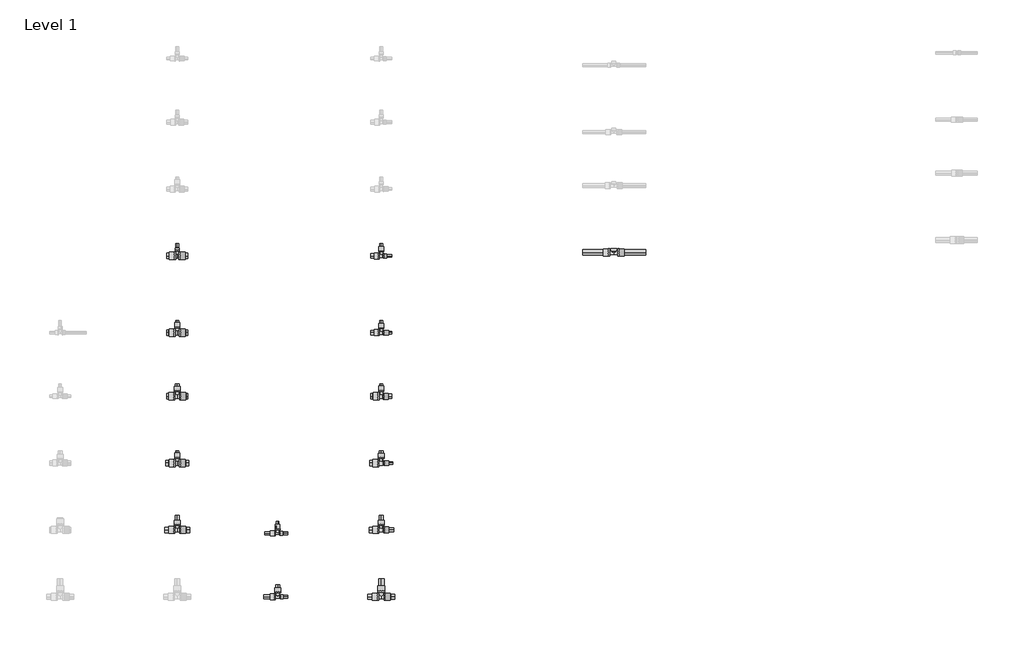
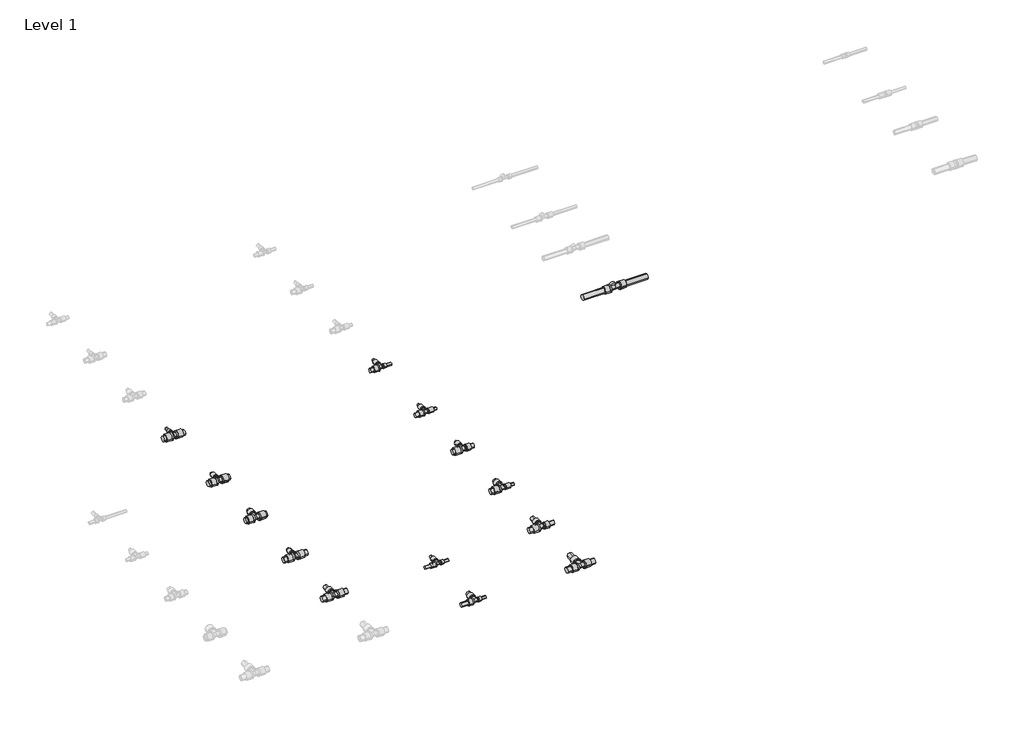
# One storey, part 34 of 78: 41 pipe segments, 14 pipe fittings.
"""IFC4 building model written with IfcOpenShell, lengths in millimetres."""

from ifc_helpers import new_model, si_unit, point, frame, frame_2d, origin, place, context, project, spatial, circle_curve, trimmed, segment, composite_curve, outline, extrude, transform, mapped, element, save
from components import pipe_fitting_91740978, pipe_fitting_29102c59, pipe_fitting_7435f538, pipe_fitting_b40a3e3c, pipe_fitting_a094db19, pipe_fitting_19df1a9e, pipe_fitting_16730f07, pipe_fitting_5d5decb5, pipe_fitting_f2600fd0, pipe_fitting_8d489ee2, pipe_fitting_c4e8b4db, pipe_fitting_e638986c

model = new_model("IFC4")

# Units and contexts
model_context = context("Model", 3, world=origin())
ifc_project = project(units=[si_unit("LENGTHUNIT", "METRE", prefix="MILLI")], contexts=[model_context])

# Site, building, storey
site = spatial("IfcSite", under=ifc_project)
building = spatial("IfcBuilding", under=site)
storey = spatial("IfcBuildingStorey", under=building, Name="Level 1", Elevation=0.0)

# Pipe fittings
placement = place(None, origin())
pipe_fitting_shape = pipe_fitting_91740978(model_context)
element("IfcPipeFitting", 1, ObjectType="FASTLOC_T-piece internal thread LX : FSL T thread LX FR", at=placement, inside=storey, context=model_context, shape_type="MappedRepresentation", body=[
    mapped(pipe_fitting_shape, transform((59036.609585, -28299.8272875, 0.0), x_axis=(1.0, 0.0, 0.0), y_axis=(0.0, 1.0, 0.0), z_axis=(0.0, 0.0, 1.0))),
])
pipe_fitting_2_shape = pipe_fitting_29102c59(model_context)
element("IfcPipeFitting", 2, ObjectType="FASTLOC_T-piece_LX : FSL T-Piece LX FR", at=placement, inside=storey, context=model_context, shape_type="MappedRepresentation", body=[
    mapped(pipe_fitting_2_shape, transform((57646.7498072, -30360.2405791, 0.0), x_axis=(1.0, 0.0, 0.0), y_axis=(0.0, 1.0, 0.0), z_axis=(0.0, 0.0, 1.0))),
])
pipe_fitting_3_shape = pipe_fitting_7435f538(model_context)
element("IfcPipeFitting", 3, ObjectType="FASTLOC_T-piece_LX : FSL T-Piece LX FR", at=placement, inside=storey, context=model_context, shape_type="MappedRepresentation", body=[
    mapped(pipe_fitting_3_shape, transform((56426.7498072, -28780.2405791, 0.0), x_axis=(1.0, 0.0, 0.0), y_axis=(0.0, 1.0, 0.0), z_axis=(0.0, 0.0, 1.0))),
])
element("IfcPipeFitting", 4, ObjectType="FASTLOC_T-piece_LX : FSL T-Piece LX FR", at=placement, inside=storey, context=model_context, shape_type="MappedRepresentation", body=[
    mapped(pipe_fitting_3_shape, transform((56426.7498072, -29560.2405791, 0.0), x_axis=(1.0, 0.0, 0.0), y_axis=(0.0, 1.0, 0.0), z_axis=(0.0, 0.0, 1.0))),
])
pipe_fitting_4_shape = pipe_fitting_b40a3e3c(model_context)
element("IfcPipeFitting", 5, ObjectType="FASTLOC_T-piece_LX : FSL T-Piece LX FR", at=placement, inside=storey, context=model_context, shape_type="MappedRepresentation", body=[
    mapped(pipe_fitting_4_shape, transform((56426.7498072, -29160.2405791, 0.0), x_axis=(1.0, 0.0, 0.0), y_axis=(0.0, 1.0, 0.0), z_axis=(0.0, 0.0, 1.0))),
])
element("IfcPipeFitting", 6, ObjectType="FASTLOC_T-piece_LX : FSL T-Piece LX FR", at=placement, inside=storey, context=model_context, shape_type="MappedRepresentation", body=[
    mapped(pipe_fitting_4_shape, transform((56426.7498072, -29960.2405791, 0.0), x_axis=(1.0, 0.0, 0.0), y_axis=(0.0, 1.0, 0.0), z_axis=(0.0, 0.0, 1.0))),
])
pipe_fitting_5_shape = pipe_fitting_a094db19(model_context)
element("IfcPipeFitting", 7, ObjectType="FASTLOC_T-piece_LX : FSL T-Piece LX FR", at=placement, inside=storey, context=model_context, shape_type="MappedRepresentation", body=[
    mapped(pipe_fitting_5_shape, transform((56426.7498072, -28320.2405791, 0.0), x_axis=(1.0, 0.0, 0.0), y_axis=(0.0, 1.0, 0.0), z_axis=(0.0, 0.0, 1.0))),
])
pipe_fitting_6_shape = pipe_fitting_19df1a9e(model_context)
element("IfcPipeFitting", 8, ObjectType="FASTLOC_T-piece_LX : FSL T-Piece LX FR", at=placement, inside=storey, context=model_context, shape_type="MappedRepresentation", body=[
    mapped(pipe_fitting_6_shape, transform((57026.7498072, -29980.2405791, 0.0), x_axis=(1.0, 0.0, 0.0), y_axis=(0.0, 1.0, 0.0), z_axis=(0.0, 0.0, 1.0))),
])
pipe_fitting_7_shape = pipe_fitting_16730f07(model_context)
element("IfcPipeFitting", 9, ObjectType="FASTLOC_T-piece_LX : FSL T-Piece LX FR", at=placement, inside=storey, context=model_context, shape_type="MappedRepresentation", body=[
    mapped(pipe_fitting_7_shape, transform((57026.7498072, -30360.2405791, 0.0), x_axis=(1.0, 0.0, 0.0), y_axis=(0.0, 1.0, 0.0), z_axis=(0.0, 0.0, 1.0))),
])
pipe_fitting_8_shape = pipe_fitting_5d5decb5(model_context)
element("IfcPipeFitting", 10, ObjectType="FASTLOC_T-piece_LX : FSL T-Piece LX FR", at=placement, inside=storey, context=model_context, shape_type="MappedRepresentation", body=[
    mapped(pipe_fitting_8_shape, transform((57646.7498072, -28780.2405791, 0.0), x_axis=(1.0, 0.0, 0.0), y_axis=(0.0, 1.0, 0.0), z_axis=(0.0, 0.0, 1.0))),
])
pipe_fitting_9_shape = pipe_fitting_f2600fd0(model_context)
element("IfcPipeFitting", 11, ObjectType="FASTLOC_T-piece_LX : FSL T-Piece LX FR", at=placement, inside=storey, context=model_context, shape_type="MappedRepresentation", body=[
    mapped(pipe_fitting_9_shape, transform((57646.7498072, -29160.2405791, 0.0), x_axis=(1.0, 0.0, 0.0), y_axis=(0.0, 1.0, 0.0), z_axis=(0.0, 0.0, 1.0))),
])
pipe_fitting_10_shape = pipe_fitting_8d489ee2(model_context)
element("IfcPipeFitting", 12, ObjectType="FASTLOC_T-piece_LX : FSL T-Piece LX FR", at=placement, inside=storey, context=model_context, shape_type="MappedRepresentation", body=[
    mapped(pipe_fitting_10_shape, transform((57646.7498072, -29560.2405791, 0.0), x_axis=(1.0, 0.0, 0.0), y_axis=(0.0, 1.0, 0.0), z_axis=(0.0, 0.0, 1.0))),
])
pipe_fitting_11_shape = pipe_fitting_c4e8b4db(model_context)
element("IfcPipeFitting", 13, ObjectType="FASTLOC_T-piece_LX : FSL T-Piece LX FR", at=placement, inside=storey, context=model_context, shape_type="MappedRepresentation", body=[
    mapped(pipe_fitting_11_shape, transform((57646.7498072, -29960.2405791, 0.0), x_axis=(1.0, 0.0, 0.0), y_axis=(0.0, 1.0, 0.0), z_axis=(0.0, 0.0, 1.0))),
])
pipe_fitting_12_shape = pipe_fitting_e638986c(model_context)
element("IfcPipeFitting", 14, ObjectType="FASTLOC_T-piece_LX : FSL T-Piece LX FR", at=placement, inside=storey, context=model_context, shape_type="MappedRepresentation", body=[
    mapped(pipe_fitting_12_shape, transform((57646.7498072, -28320.2405791, 0.0), x_axis=(1.0, 0.0, 0.0), y_axis=(0.0, 1.0, 0.0), z_axis=(0.0, 0.0, 1.0))),
])

# Pipe segments
element("IfcPipeSegment", 15, ObjectType="FASTLOC LX ML FR coil", at=placement, inside=storey, context=model_context, shape_type="SweptSolid", body=[
    extrude(outline(composite_curve([segment(trimmed(circle_curve(frame_2d((-28780.2405791, 0.0)), 16.0), [point((-28796.2405791, 0.0))], [point((-28780.2405791, 16.0))], False, "CARTESIAN"), True, "CONTINUOUS"), segment(trimmed(circle_curve(frame_2d((-28780.2405791, 0.0)), 16.0), [point((-28780.2405791, 16.0))], [point((-28764.2405791, 0.0))], False, "CARTESIAN"), True, "CONTINUOUS"), segment(trimmed(circle_curve(frame_2d((-28780.2405791, 0.0)), 16.0), [point((-28764.2405791, 0.0))], [point((-28780.2405791, -16.0))], False, "CARTESIAN"), True, "CONTINUOUS"), segment(trimmed(circle_curve(frame_2d((-28780.2405791, 0.0)), 16.0), [point((-28780.2405791, -16.0))], [point((-28796.2405791, 0.0))], False, "CARTESIAN"), True, "CONTINUOUS")], self_intersect=False)), frame((56446.9498072, 0.0, 0.0), z_axis=(1.0, 0.0, 0.0), x_axis=(0.0, 1.0, 0.0)), (0.0, 0.0, 1.0), 41.8),
])
element("IfcPipeSegment", 16, ObjectType="FASTLOC LX ML FR coil", at=placement, inside=storey, context=model_context, shape_type="SweptSolid", body=[
    extrude(outline(composite_curve([segment(trimmed(circle_curve(frame_2d((-28780.2405791, 0.0)), 16.0), [point((-28764.2405791, 0.0))], [point((-28780.2405791, -16.0))], False, "CARTESIAN"), True, "CONTINUOUS"), segment(trimmed(circle_curve(frame_2d((-28780.2405791, 0.0)), 16.0), [point((-28780.2405791, -16.0))], [point((-28796.2405791, 0.0))], False, "CARTESIAN"), True, "CONTINUOUS"), segment(trimmed(circle_curve(frame_2d((-28780.2405791, 0.0)), 16.0), [point((-28796.2405791, 0.0))], [point((-28780.2405791, 16.0))], False, "CARTESIAN"), True, "CONTINUOUS"), segment(trimmed(circle_curve(frame_2d((-28780.2405791, 0.0)), 16.0), [point((-28780.2405791, 16.0))], [point((-28764.2405791, 0.0))], False, "CARTESIAN"), True, "CONTINUOUS")], self_intersect=False)), frame((56364.7498072, 0.0, 0.0), z_axis=(1.0, 0.0, 0.0), x_axis=(0.0, 1.0, 0.0)), (0.0, 0.0, 1.0), 41.8),
])
element("IfcPipeSegment", 17, ObjectType="FASTLOC LX ML FR coil", at=placement, inside=storey, context=model_context, shape_type="SweptSolid", body=[
    extrude(outline(composite_curve([segment(trimmed(circle_curve(frame_2d((0.0, 56426.7498072)), 8.0), [point((0.0, 56434.7498072))], [point((8.0, 56426.7498072))], False, "CARTESIAN"), True, "CONTINUOUS"), segment(trimmed(circle_curve(frame_2d((0.0, 56426.7498072)), 8.0), [point((8.0, 56426.7498072))], [point((0.0, 56418.7498072))], False, "CARTESIAN"), True, "CONTINUOUS"), segment(trimmed(circle_curve(frame_2d((0.0, 56426.7498072)), 8.0), [point((0.0, 56418.7498072))], [point((-8.0, 56426.7498072))], False, "CARTESIAN"), True, "CONTINUOUS"), segment(trimmed(circle_curve(frame_2d((0.0, 56426.7498072)), 8.0), [point((-8.0, 56426.7498072))], [point((0.0, 56434.7498072))], False, "CARTESIAN"), True, "CONTINUOUS")], self_intersect=False)), frame((0.0, -28746.2405791, 0.0), z_axis=(0.0, 1.0, 0.0), x_axis=(0.0, 0.0, 1.0)), (0.0, 0.0, 1.0), 38.3),
])
element("IfcPipeSegment", 18, ObjectType="FASTLOC LX ML FR coil", at=placement, inside=storey, context=model_context, shape_type="SweptSolid", body=[
    extrude(outline(composite_curve([segment(trimmed(circle_curve(frame_2d((-29160.2405791, 0.0)), 16.0), [point((-29176.2405791, 0.0))], [point((-29160.2405791, 16.0))], False, "CARTESIAN"), True, "CONTINUOUS"), segment(trimmed(circle_curve(frame_2d((-29160.2405791, 0.0)), 16.0), [point((-29160.2405791, 16.0))], [point((-29144.2405791, 0.0))], False, "CARTESIAN"), True, "CONTINUOUS"), segment(trimmed(circle_curve(frame_2d((-29160.2405791, 0.0)), 16.0), [point((-29144.2405791, 0.0))], [point((-29160.2405791, -16.0))], False, "CARTESIAN"), True, "CONTINUOUS"), segment(trimmed(circle_curve(frame_2d((-29160.2405791, 0.0)), 16.0), [point((-29160.2405791, -16.0))], [point((-29176.2405791, 0.0))], False, "CARTESIAN"), True, "CONTINUOUS")], self_intersect=False)), frame((56448.7498072, 0.0, 0.0), z_axis=(1.0, 0.0, 0.0), x_axis=(0.0, 1.0, 0.0)), (0.0, 0.0, 1.0), 40.0),
])
element("IfcPipeSegment", 19, ObjectType="FASTLOC LX ML FR coil", at=placement, inside=storey, context=model_context, shape_type="SweptSolid", body=[
    extrude(outline(composite_curve([segment(trimmed(circle_curve(frame_2d((-29160.2405791, 0.0)), 16.0), [point((-29144.2405791, 0.0))], [point((-29160.2405791, -16.0))], False, "CARTESIAN"), True, "CONTINUOUS"), segment(trimmed(circle_curve(frame_2d((-29160.2405791, 0.0)), 16.0), [point((-29160.2405791, -16.0))], [point((-29176.2405791, 0.0))], False, "CARTESIAN"), True, "CONTINUOUS"), segment(trimmed(circle_curve(frame_2d((-29160.2405791, 0.0)), 16.0), [point((-29176.2405791, 0.0))], [point((-29160.2405791, 16.0))], False, "CARTESIAN"), True, "CONTINUOUS"), segment(trimmed(circle_curve(frame_2d((-29160.2405791, 0.0)), 16.0), [point((-29160.2405791, 16.0))], [point((-29144.2405791, 0.0))], False, "CARTESIAN"), True, "CONTINUOUS")], self_intersect=False)), frame((56364.7498072, 0.0, 0.0), z_axis=(1.0, 0.0, 0.0), x_axis=(0.0, 1.0, 0.0)), (0.0, 0.0, 1.0), 40.0),
])
element("IfcPipeSegment", 20, ObjectType="FASTLOC LX ML FR coil", at=placement, inside=storey, context=model_context, shape_type="SweptSolid", body=[
    extrude(outline(composite_curve([segment(trimmed(circle_curve(frame_2d((0.0, 56426.7498072)), 12.5), [point((0.0, 56439.2498072))], [point((12.5, 56426.7498072))], False, "CARTESIAN"), True, "CONTINUOUS"), segment(trimmed(circle_curve(frame_2d((0.0, 56426.7498072)), 12.5), [point((12.5, 56426.7498072))], [point((0.0, 56414.2498072))], False, "CARTESIAN"), True, "CONTINUOUS"), segment(trimmed(circle_curve(frame_2d((0.0, 56426.7498072)), 12.5), [point((0.0, 56414.2498072))], [point((-12.5, 56426.7498072))], False, "CARTESIAN"), True, "CONTINUOUS"), segment(trimmed(circle_curve(frame_2d((0.0, 56426.7498072)), 12.5), [point((-12.5, 56426.7498072))], [point((0.0, 56439.2498072))], False, "CARTESIAN"), True, "CONTINUOUS")], self_intersect=False)), frame((0.0, -29125.8405791, 0.0), z_axis=(0.0, 1.0, 0.0), x_axis=(0.0, 0.0, 1.0)), (0.0, 0.0, 1.0), 37.9),
])
element("IfcPipeSegment", 21, ObjectType="FASTLOC LX ML FR coil", at=placement, inside=storey, context=model_context, shape_type="SweptSolid", body=[
    extrude(outline(composite_curve([segment(trimmed(circle_curve(frame_2d((-29560.2405791, 0.0)), 16.0), [point((-29576.2405791, 0.0))], [point((-29560.2405791, 16.0))], False, "CARTESIAN"), True, "CONTINUOUS"), segment(trimmed(circle_curve(frame_2d((-29560.2405791, 0.0)), 16.0), [point((-29560.2405791, 16.0))], [point((-29544.2405791, 0.0))], False, "CARTESIAN"), True, "CONTINUOUS"), segment(trimmed(circle_curve(frame_2d((-29560.2405791, 0.0)), 16.0), [point((-29544.2405791, 0.0))], [point((-29560.2405791, -16.0))], False, "CARTESIAN"), True, "CONTINUOUS"), segment(trimmed(circle_curve(frame_2d((-29560.2405791, 0.0)), 16.0), [point((-29560.2405791, -16.0))], [point((-29576.2405791, 0.0))], False, "CARTESIAN"), True, "CONTINUOUS")], self_intersect=False)), frame((56446.9498072, 0.0, 0.0), z_axis=(1.0, 0.0, 0.0), x_axis=(0.0, 1.0, 0.0)), (0.0, 0.0, 1.0), 48.8),
])
element("IfcPipeSegment", 22, ObjectType="FASTLOC LX ML FR coil", at=placement, inside=storey, context=model_context, shape_type="SweptSolid", body=[
    extrude(outline(composite_curve([segment(trimmed(circle_curve(frame_2d((-29560.2405791, 0.0)), 16.0), [point((-29544.2405791, 0.0))], [point((-29560.2405791, -16.0))], False, "CARTESIAN"), True, "CONTINUOUS"), segment(trimmed(circle_curve(frame_2d((-29560.2405791, 0.0)), 16.0), [point((-29560.2405791, -16.0))], [point((-29576.2405791, 0.0))], False, "CARTESIAN"), True, "CONTINUOUS"), segment(trimmed(circle_curve(frame_2d((-29560.2405791, 0.0)), 16.0), [point((-29576.2405791, 0.0))], [point((-29560.2405791, 16.0))], False, "CARTESIAN"), True, "CONTINUOUS"), segment(trimmed(circle_curve(frame_2d((-29560.2405791, 0.0)), 16.0), [point((-29560.2405791, 16.0))], [point((-29544.2405791, 0.0))], False, "CARTESIAN"), True, "CONTINUOUS")], self_intersect=False)), frame((56357.7498072, 0.0, 0.0), z_axis=(1.0, 0.0, 0.0), x_axis=(0.0, 1.0, 0.0)), (0.0, 0.0, 1.0), 48.8),
])
element("IfcPipeSegment", 23, ObjectType="FASTLOC LX ML FR coil", at=placement, inside=storey, context=model_context, shape_type="SweptSolid", body=[
    extrude(outline(composite_curve([segment(trimmed(circle_curve(frame_2d((0.0, 56426.7498072)), 8.0), [point((0.0, 56434.7498072))], [point((8.0, 56426.7498072))], False, "CARTESIAN"), True, "CONTINUOUS"), segment(trimmed(circle_curve(frame_2d((0.0, 56426.7498072)), 8.0), [point((8.0, 56426.7498072))], [point((0.0, 56418.7498072))], False, "CARTESIAN"), True, "CONTINUOUS"), segment(trimmed(circle_curve(frame_2d((0.0, 56426.7498072)), 8.0), [point((0.0, 56418.7498072))], [point((-8.0, 56426.7498072))], False, "CARTESIAN"), True, "CONTINUOUS"), segment(trimmed(circle_curve(frame_2d((0.0, 56426.7498072)), 8.0), [point((-8.0, 56426.7498072))], [point((0.0, 56434.7498072))], False, "CARTESIAN"), True, "CONTINUOUS")], self_intersect=False)), frame((0.0, -29526.2405791, 0.0), z_axis=(0.0, 1.0, 0.0), x_axis=(0.0, 0.0, 1.0)), (0.0, 0.0, 1.0), 38.3),
])
element("IfcPipeSegment", 24, ObjectType="FASTLOC LX ML FR coil", at=placement, inside=storey, context=model_context, shape_type="SweptSolid", body=[
    extrude(outline(composite_curve([segment(trimmed(circle_curve(frame_2d((-29960.2405791, 0.0)), 16.0), [point((-29976.2405791, 0.0))], [point((-29960.2405791, 16.0))], False, "CARTESIAN"), True, "CONTINUOUS"), segment(trimmed(circle_curve(frame_2d((-29960.2405791, 0.0)), 16.0), [point((-29960.2405791, 16.0))], [point((-29944.2405791, 0.0))], False, "CARTESIAN"), True, "CONTINUOUS"), segment(trimmed(circle_curve(frame_2d((-29960.2405791, 0.0)), 16.0), [point((-29944.2405791, 0.0))], [point((-29960.2405791, -16.0))], False, "CARTESIAN"), True, "CONTINUOUS"), segment(trimmed(circle_curve(frame_2d((-29960.2405791, 0.0)), 16.0), [point((-29960.2405791, -16.0))], [point((-29976.2405791, 0.0))], False, "CARTESIAN"), True, "CONTINUOUS")], self_intersect=False)), frame((56448.7498072, 0.0, 0.0), z_axis=(1.0, 0.0, 0.0), x_axis=(0.0, 1.0, 0.0)), (0.0, 0.0, 1.0), 51.6),
])
element("IfcPipeSegment", 25, ObjectType="FASTLOC LX ML FR coil", at=placement, inside=storey, context=model_context, shape_type="SweptSolid", body=[
    extrude(outline(composite_curve([segment(trimmed(circle_curve(frame_2d((-29960.2405791, 0.0)), 16.0), [point((-29944.2405791, 0.0))], [point((-29960.2405791, -16.0))], False, "CARTESIAN"), True, "CONTINUOUS"), segment(trimmed(circle_curve(frame_2d((-29960.2405791, 0.0)), 16.0), [point((-29960.2405791, -16.0))], [point((-29976.2405791, 0.0))], False, "CARTESIAN"), True, "CONTINUOUS"), segment(trimmed(circle_curve(frame_2d((-29960.2405791, 0.0)), 16.0), [point((-29976.2405791, 0.0))], [point((-29960.2405791, 16.0))], False, "CARTESIAN"), True, "CONTINUOUS"), segment(trimmed(circle_curve(frame_2d((-29960.2405791, 0.0)), 16.0), [point((-29960.2405791, 16.0))], [point((-29944.2405791, 0.0))], False, "CARTESIAN"), True, "CONTINUOUS")], self_intersect=False)), frame((56353.1498072, 0.0, 0.0), z_axis=(1.0, 0.0, 0.0), x_axis=(0.0, 1.0, 0.0)), (0.0, 0.0, 1.0), 51.6),
])
element("IfcPipeSegment", 26, ObjectType="FASTLOC LX ML FR coil", at=placement, inside=storey, context=model_context, shape_type="SweptSolid", body=[
    extrude(outline(composite_curve([segment(trimmed(circle_curve(frame_2d((0.0, 56426.7498072)), 12.5), [point((0.0, 56439.2498072))], [point((12.5, 56426.7498072))], False, "CARTESIAN"), True, "CONTINUOUS"), segment(trimmed(circle_curve(frame_2d((0.0, 56426.7498072)), 12.5), [point((12.5, 56426.7498072))], [point((0.0, 56414.2498072))], False, "CARTESIAN"), True, "CONTINUOUS"), segment(trimmed(circle_curve(frame_2d((0.0, 56426.7498072)), 12.5), [point((0.0, 56414.2498072))], [point((-12.5, 56426.7498072))], False, "CARTESIAN"), True, "CONTINUOUS"), segment(trimmed(circle_curve(frame_2d((0.0, 56426.7498072)), 12.5), [point((-12.5, 56426.7498072))], [point((0.0, 56439.2498072))], False, "CARTESIAN"), True, "CONTINUOUS")], self_intersect=False)), frame((0.0, -29925.8405791, 0.0), z_axis=(0.0, 1.0, 0.0), x_axis=(0.0, 0.0, 1.0)), (0.0, 0.0, 1.0), 53.4),
])
element("IfcPipeSegment", 27, ObjectType="FASTLOC LX ML FR coil", at=placement, inside=storey, context=model_context, shape_type="SweptSolid", body=[
    extrude(outline(composite_curve([segment(trimmed(circle_curve(frame_2d((-28320.2405791, 0.0)), 16.0), [point((-28336.2405791, 0.0))], [point((-28320.2405791, 16.0))], False, "CARTESIAN"), True, "CONTINUOUS"), segment(trimmed(circle_curve(frame_2d((-28320.2405791, 0.0)), 16.0), [point((-28320.2405791, 16.0))], [point((-28304.2405791, 0.0))], False, "CARTESIAN"), True, "CONTINUOUS"), segment(trimmed(circle_curve(frame_2d((-28320.2405791, 0.0)), 16.0), [point((-28304.2405791, 0.0))], [point((-28320.2405791, -16.0))], False, "CARTESIAN"), True, "CONTINUOUS"), segment(trimmed(circle_curve(frame_2d((-28320.2405791, 0.0)), 16.0), [point((-28320.2405791, -16.0))], [point((-28336.2405791, 0.0))], False, "CARTESIAN"), True, "CONTINUOUS")], self_intersect=False)), frame((56445.0498072, 0.0, 0.0), z_axis=(1.0, 0.0, 0.0), x_axis=(0.0, 1.0, 0.0)), (0.0, 0.0, 1.0), 43.7),
])
element("IfcPipeSegment", 28, ObjectType="FASTLOC LX ML FR coil", at=placement, inside=storey, context=model_context, shape_type="SweptSolid", body=[
    extrude(outline(composite_curve([segment(trimmed(circle_curve(frame_2d((-28320.2405791, 0.0)), 16.0), [point((-28304.2405791, 0.0))], [point((-28320.2405791, -16.0))], False, "CARTESIAN"), True, "CONTINUOUS"), segment(trimmed(circle_curve(frame_2d((-28320.2405791, 0.0)), 16.0), [point((-28320.2405791, -16.0))], [point((-28336.2405791, 0.0))], False, "CARTESIAN"), True, "CONTINUOUS"), segment(trimmed(circle_curve(frame_2d((-28320.2405791, 0.0)), 16.0), [point((-28336.2405791, 0.0))], [point((-28320.2405791, 16.0))], False, "CARTESIAN"), True, "CONTINUOUS"), segment(trimmed(circle_curve(frame_2d((-28320.2405791, 0.0)), 16.0), [point((-28320.2405791, 16.0))], [point((-28304.2405791, 0.0))], False, "CARTESIAN"), True, "CONTINUOUS")], self_intersect=False)), frame((56364.7498072, 0.0, 0.0), z_axis=(1.0, 0.0, 0.0), x_axis=(0.0, 1.0, 0.0)), (0.0, 0.0, 1.0), 43.7),
])
element("IfcPipeSegment", 29, ObjectType="FASTLOC LX ML FR coil", at=placement, inside=storey, context=model_context, shape_type="SweptSolid", body=[
    extrude(outline(composite_curve([segment(trimmed(circle_curve(frame_2d((0.0, 56426.7498072)), 8.0), [point((0.0, 56434.7498072))], [point((8.0, 56426.7498072))], False, "CARTESIAN"), True, "CONTINUOUS"), segment(trimmed(circle_curve(frame_2d((0.0, 56426.7498072)), 8.0), [point((8.0, 56426.7498072))], [point((0.0, 56418.7498072))], False, "CARTESIAN"), True, "CONTINUOUS"), segment(trimmed(circle_curve(frame_2d((0.0, 56426.7498072)), 8.0), [point((0.0, 56418.7498072))], [point((-8.0, 56426.7498072))], False, "CARTESIAN"), True, "CONTINUOUS"), segment(trimmed(circle_curve(frame_2d((0.0, 56426.7498072)), 8.0), [point((-8.0, 56426.7498072))], [point((0.0, 56434.7498072))], False, "CARTESIAN"), True, "CONTINUOUS")], self_intersect=False)), frame((0.0, -28286.3405791, 0.0), z_axis=(0.0, 1.0, 0.0), x_axis=(0.0, 0.0, 1.0)), (0.0, 0.0, 1.0), 38.4),
])
element("IfcPipeSegment", 30, ObjectType="FASTLOC LX ML FR coil", at=placement, inside=storey, context=model_context, shape_type="SweptSolid", body=[
    extrude(outline(composite_curve([segment(trimmed(circle_curve(frame_2d((-29980.2405791, 0.0)), 8.0), [point((-29988.2405791, 0.0))], [point((-29980.2405791, 8.0))], False, "CARTESIAN"), True, "CONTINUOUS"), segment(trimmed(circle_curve(frame_2d((-29980.2405791, 0.0)), 8.0), [point((-29980.2405791, 8.0))], [point((-29972.2405791, 0.0))], False, "CARTESIAN"), True, "CONTINUOUS"), segment(trimmed(circle_curve(frame_2d((-29980.2405791, 0.0)), 8.0), [point((-29972.2405791, 0.0))], [point((-29980.2405791, -8.0))], False, "CARTESIAN"), True, "CONTINUOUS"), segment(trimmed(circle_curve(frame_2d((-29980.2405791, 0.0)), 8.0), [point((-29980.2405791, -8.0))], [point((-29988.2405791, 0.0))], False, "CARTESIAN"), True, "CONTINUOUS")], self_intersect=False)), frame((57043.7498072, 0.0, 0.0), z_axis=(1.0, 0.0, 0.0), x_axis=(0.0, 1.0, 0.0)), (0.0, 0.0, 1.0), 45.0),
])
element("IfcPipeSegment", 31, ObjectType="FASTLOC LX ML FR coil", at=placement, inside=storey, context=model_context, shape_type="SweptSolid", body=[
    extrude(outline(composite_curve([segment(trimmed(circle_curve(frame_2d((-29980.2405791, 0.0)), 8.0), [point((-29972.2405791, 0.0))], [point((-29980.2405791, -8.0))], False, "CARTESIAN"), True, "CONTINUOUS"), segment(trimmed(circle_curve(frame_2d((-29980.2405791, 0.0)), 8.0), [point((-29980.2405791, -8.0))], [point((-29988.2405791, 0.0))], False, "CARTESIAN"), True, "CONTINUOUS"), segment(trimmed(circle_curve(frame_2d((-29980.2405791, 0.0)), 8.0), [point((-29988.2405791, 0.0))], [point((-29980.2405791, 8.0))], False, "CARTESIAN"), True, "CONTINUOUS"), segment(trimmed(circle_curve(frame_2d((-29980.2405791, 0.0)), 8.0), [point((-29980.2405791, 8.0))], [point((-29972.2405791, 0.0))], False, "CARTESIAN"), True, "CONTINUOUS")], self_intersect=False)), frame((56949.3498072, 0.0, 0.0), z_axis=(1.0, 0.0, 0.0), x_axis=(0.0, 1.0, 0.0)), (0.0, 0.0, 1.0), 60.0),
])
element("IfcPipeSegment", 32, ObjectType="FASTLOC LX ML FR coil", at=placement, inside=storey, context=model_context, shape_type="SweptSolid", body=[
    extrude(outline(composite_curve([segment(trimmed(circle_curve(frame_2d((0.0, 57026.7498072)), 8.0), [point((0.0, 57034.7498072))], [point((8.0, 57026.7498072))], False, "CARTESIAN"), True, "CONTINUOUS"), segment(trimmed(circle_curve(frame_2d((0.0, 57026.7498072)), 8.0), [point((8.0, 57026.7498072))], [point((0.0, 57018.7498072))], False, "CARTESIAN"), True, "CONTINUOUS"), segment(trimmed(circle_curve(frame_2d((0.0, 57026.7498072)), 8.0), [point((0.0, 57018.7498072))], [point((-8.0, 57026.7498072))], False, "CARTESIAN"), True, "CONTINUOUS"), segment(trimmed(circle_curve(frame_2d((0.0, 57026.7498072)), 8.0), [point((-8.0, 57026.7498072))], [point((0.0, 57034.7498072))], False, "CARTESIAN"), True, "CONTINUOUS")], self_intersect=False)), frame((0.0, -29953.8405791, 0.0), z_axis=(0.0, 1.0, 0.0), x_axis=(0.0, 0.0, 1.0)), (0.0, 0.0, 1.0), 45.9),
])
element("IfcPipeSegment", 33, ObjectType="FASTLOC LX ML FR coil", at=placement, inside=storey, context=model_context, shape_type="SweptSolid", body=[
    extrude(outline(composite_curve([segment(trimmed(circle_curve(frame_2d((-30360.2405791, 0.0)), 8.0), [point((-30368.2405791, 0.0))], [point((-30360.2405791, 8.0))], False, "CARTESIAN"), True, "CONTINUOUS"), segment(trimmed(circle_curve(frame_2d((-30360.2405791, 0.0)), 8.0), [point((-30360.2405791, 8.0))], [point((-30352.2405791, 0.0))], False, "CARTESIAN"), True, "CONTINUOUS"), segment(trimmed(circle_curve(frame_2d((-30360.2405791, 0.0)), 8.0), [point((-30352.2405791, 0.0))], [point((-30360.2405791, -8.0))], False, "CARTESIAN"), True, "CONTINUOUS"), segment(trimmed(circle_curve(frame_2d((-30360.2405791, 0.0)), 8.0), [point((-30360.2405791, -8.0))], [point((-30368.2405791, 0.0))], False, "CARTESIAN"), True, "CONTINUOUS")], self_intersect=False)), frame((57045.5498072, 0.0, 0.0), z_axis=(1.0, 0.0, 0.0), x_axis=(0.0, 1.0, 0.0)), (0.0, 0.0, 1.0), 43.2),
])
element("IfcPipeSegment", 34, ObjectType="FASTLOC LX ML FR coil", at=placement, inside=storey, context=model_context, shape_type="SweptSolid", body=[
    extrude(outline(composite_curve([segment(trimmed(circle_curve(frame_2d((-30360.2405791, 0.0)), 12.5), [point((-30347.7405791, 0.0))], [point((-30360.2405791, -12.5))], False, "CARTESIAN"), True, "CONTINUOUS"), segment(trimmed(circle_curve(frame_2d((-30360.2405791, 0.0)), 12.5), [point((-30360.2405791, -12.5))], [point((-30372.7405791, 0.0))], False, "CARTESIAN"), True, "CONTINUOUS"), segment(trimmed(circle_curve(frame_2d((-30360.2405791, 0.0)), 12.5), [point((-30372.7405791, 0.0))], [point((-30360.2405791, 12.5))], False, "CARTESIAN"), True, "CONTINUOUS"), segment(trimmed(circle_curve(frame_2d((-30360.2405791, 0.0)), 12.5), [point((-30360.2405791, 12.5))], [point((-30347.7405791, 0.0))], False, "CARTESIAN"), True, "CONTINUOUS")], self_intersect=False)), frame((56944.3498072, 0.0, 0.0), z_axis=(1.0, 0.0, 0.0), x_axis=(0.0, 1.0, 0.0)), (0.0, 0.0, 1.0), 62.3),
])
element("IfcPipeSegment", 35, ObjectType="FASTLOC LX ML FR coil", at=placement, inside=storey, context=model_context, shape_type="SweptSolid", body=[
    extrude(outline(composite_curve([segment(trimmed(circle_curve(frame_2d((0.0, 57026.7498072)), 12.5), [point((0.0, 57039.2498072))], [point((12.5, 57026.7498072))], False, "CARTESIAN"), True, "CONTINUOUS"), segment(trimmed(circle_curve(frame_2d((0.0, 57026.7498072)), 12.5), [point((12.5, 57026.7498072))], [point((0.0, 57014.2498072))], False, "CARTESIAN"), True, "CONTINUOUS"), segment(trimmed(circle_curve(frame_2d((0.0, 57026.7498072)), 12.5), [point((0.0, 57014.2498072))], [point((-12.5, 57026.7498072))], False, "CARTESIAN"), True, "CONTINUOUS"), segment(trimmed(circle_curve(frame_2d((0.0, 57026.7498072)), 12.5), [point((-12.5, 57026.7498072))], [point((0.0, 57039.2498072))], False, "CARTESIAN"), True, "CONTINUOUS")], self_intersect=False)), frame((0.0, -30330.7405791, 0.0), z_axis=(0.0, 1.0, 0.0), x_axis=(0.0, 0.0, 1.0)), (0.0, 0.0, 1.0), 42.8),
])
element("IfcPipeSegment", 36, ObjectType="FASTLOC LX ML FR coil", at=placement, inside=storey, context=model_context, shape_type="SweptSolid", body=[
    extrude(outline(composite_curve([segment(trimmed(circle_curve(frame_2d((-28780.2405791, 0.0)), 8.0), [point((-28788.2405791, 0.0))], [point((-28780.2405791, 8.0))], False, "CARTESIAN"), True, "CONTINUOUS"), segment(trimmed(circle_curve(frame_2d((-28780.2405791, 0.0)), 8.0), [point((-28780.2405791, 8.0))], [point((-28772.2405791, 0.0))], False, "CARTESIAN"), True, "CONTINUOUS"), segment(trimmed(circle_curve(frame_2d((-28780.2405791, 0.0)), 8.0), [point((-28772.2405791, 0.0))], [point((-28780.2405791, -8.0))], False, "CARTESIAN"), True, "CONTINUOUS"), segment(trimmed(circle_curve(frame_2d((-28780.2405791, 0.0)), 8.0), [point((-28780.2405791, -8.0))], [point((-28788.2405791, 0.0))], False, "CARTESIAN"), True, "CONTINUOUS")], self_intersect=False)), frame((57664.1498072, 0.0, 0.0), z_axis=(1.0, 0.0, 0.0), x_axis=(0.0, 1.0, 0.0)), (0.0, 0.0, 1.0), 44.6),
])
element("IfcPipeSegment", 37, ObjectType="FASTLOC LX ML FR coil", at=placement, inside=storey, context=model_context, shape_type="SweptSolid", body=[
    extrude(outline(composite_curve([segment(trimmed(circle_curve(frame_2d((-28780.2405791, 0.0)), 12.5), [point((-28767.7405791, 0.0))], [point((-28780.2405791, -12.5))], False, "CARTESIAN"), True, "CONTINUOUS"), segment(trimmed(circle_curve(frame_2d((-28780.2405791, 0.0)), 12.5), [point((-28780.2405791, -12.5))], [point((-28792.7405791, 0.0))], False, "CARTESIAN"), True, "CONTINUOUS"), segment(trimmed(circle_curve(frame_2d((-28780.2405791, 0.0)), 12.5), [point((-28792.7405791, 0.0))], [point((-28780.2405791, 12.5))], False, "CARTESIAN"), True, "CONTINUOUS"), segment(trimmed(circle_curve(frame_2d((-28780.2405791, 0.0)), 12.5), [point((-28780.2405791, 12.5))], [point((-28767.7405791, 0.0))], False, "CARTESIAN"), True, "CONTINUOUS")], self_intersect=False)), frame((57584.7498072, 0.0, 0.0), z_axis=(1.0, 0.0, 0.0), x_axis=(0.0, 1.0, 0.0)), (0.0, 0.0, 1.0), 43.7),
])
element("IfcPipeSegment", 38, ObjectType="FASTLOC LX ML FR coil", at=placement, inside=storey, context=model_context, shape_type="SweptSolid", body=[
    extrude(outline(composite_curve([segment(trimmed(circle_curve(frame_2d((0.0, 57646.7498072)), 8.0), [point((0.0, 57654.7498072))], [point((8.0, 57646.7498072))], False, "CARTESIAN"), True, "CONTINUOUS"), segment(trimmed(circle_curve(frame_2d((0.0, 57646.7498072)), 8.0), [point((8.0, 57646.7498072))], [point((0.0, 57638.7498072))], False, "CARTESIAN"), True, "CONTINUOUS"), segment(trimmed(circle_curve(frame_2d((0.0, 57646.7498072)), 8.0), [point((0.0, 57638.7498072))], [point((-8.0, 57646.7498072))], False, "CARTESIAN"), True, "CONTINUOUS"), segment(trimmed(circle_curve(frame_2d((0.0, 57646.7498072)), 8.0), [point((-8.0, 57646.7498072))], [point((0.0, 57654.7498072))], False, "CARTESIAN"), True, "CONTINUOUS")], self_intersect=False)), frame((0.0, -28751.0405791, 0.0), z_axis=(0.0, 1.0, 0.0), x_axis=(0.0, 0.0, 1.0)), (0.0, 0.0, 1.0), 43.1),
])
element("IfcPipeSegment", 39, ObjectType="FASTLOC LX ML FR coil", at=placement, inside=storey, context=model_context, shape_type="SweptSolid", body=[
    extrude(outline(composite_curve([segment(trimmed(circle_curve(frame_2d((-29160.2405791, 0.0)), 12.5), [point((-29172.7405791, 0.0))], [point((-29160.2405791, 12.5))], False, "CARTESIAN"), True, "CONTINUOUS"), segment(trimmed(circle_curve(frame_2d((-29160.2405791, 0.0)), 12.5), [point((-29160.2405791, 12.5))], [point((-29147.7405791, 0.0))], False, "CARTESIAN"), True, "CONTINUOUS"), segment(trimmed(circle_curve(frame_2d((-29160.2405791, 0.0)), 12.5), [point((-29147.7405791, 0.0))], [point((-29160.2405791, -12.5))], False, "CARTESIAN"), True, "CONTINUOUS"), segment(trimmed(circle_curve(frame_2d((-29160.2405791, 0.0)), 12.5), [point((-29160.2405791, -12.5))], [point((-29172.7405791, 0.0))], False, "CARTESIAN"), True, "CONTINUOUS")], self_intersect=False)), frame((57665.0498072, 0.0, 0.0), z_axis=(1.0, 0.0, 0.0), x_axis=(0.0, 1.0, 0.0)), (0.0, 0.0, 1.0), 43.7),
])
element("IfcPipeSegment", 40, ObjectType="FASTLOC LX ML FR coil", at=placement, inside=storey, context=model_context, shape_type="SweptSolid", body=[
    extrude(outline(composite_curve([segment(trimmed(circle_curve(frame_2d((-29160.2405791, 0.0)), 16.0), [point((-29144.2405791, 0.0))], [point((-29160.2405791, -16.0))], False, "CARTESIAN"), True, "CONTINUOUS"), segment(trimmed(circle_curve(frame_2d((-29160.2405791, 0.0)), 16.0), [point((-29160.2405791, -16.0))], [point((-29176.2405791, 0.0))], False, "CARTESIAN"), True, "CONTINUOUS"), segment(trimmed(circle_curve(frame_2d((-29160.2405791, 0.0)), 16.0), [point((-29176.2405791, 0.0))], [point((-29160.2405791, 16.0))], False, "CARTESIAN"), True, "CONTINUOUS"), segment(trimmed(circle_curve(frame_2d((-29160.2405791, 0.0)), 16.0), [point((-29160.2405791, 16.0))], [point((-29144.2405791, 0.0))], False, "CARTESIAN"), True, "CONTINUOUS")], self_intersect=False)), frame((57584.7498072, 0.0, 0.0), z_axis=(1.0, 0.0, 0.0), x_axis=(0.0, 1.0, 0.0)), (0.0, 0.0, 1.0), 41.7),
])
element("IfcPipeSegment", 41, ObjectType="FASTLOC LX ML FR coil", at=placement, inside=storey, context=model_context, shape_type="SweptSolid", body=[
    extrude(outline(composite_curve([segment(trimmed(circle_curve(frame_2d((0.0, 57646.7498072)), 8.0), [point((0.0, 57654.7498072))], [point((8.0, 57646.7498072))], False, "CARTESIAN"), True, "CONTINUOUS"), segment(trimmed(circle_curve(frame_2d((0.0, 57646.7498072)), 8.0), [point((8.0, 57646.7498072))], [point((0.0, 57638.7498072))], False, "CARTESIAN"), True, "CONTINUOUS"), segment(trimmed(circle_curve(frame_2d((0.0, 57646.7498072)), 8.0), [point((0.0, 57638.7498072))], [point((-8.0, 57646.7498072))], False, "CARTESIAN"), True, "CONTINUOUS"), segment(trimmed(circle_curve(frame_2d((0.0, 57646.7498072)), 8.0), [point((-8.0, 57646.7498072))], [point((0.0, 57654.7498072))], False, "CARTESIAN"), True, "CONTINUOUS")], self_intersect=False)), frame((0.0, -29126.2405791, 0.0), z_axis=(0.0, 1.0, 0.0), x_axis=(0.0, 0.0, 1.0)), (0.0, 0.0, 1.0), 38.3),
])
element("IfcPipeSegment", 42, ObjectType="FASTLOC LX ML FR coil", at=placement, inside=storey, context=model_context, shape_type="SweptSolid", body=[
    extrude(outline(composite_curve([segment(trimmed(circle_curve(frame_2d((-29560.2405791, 0.0)), 8.0), [point((-29568.2405791, 0.0))], [point((-29560.2405791, 8.0))], False, "CARTESIAN"), True, "CONTINUOUS"), segment(trimmed(circle_curve(frame_2d((-29560.2405791, 0.0)), 8.0), [point((-29560.2405791, 8.0))], [point((-29552.2405791, 0.0))], False, "CARTESIAN"), True, "CONTINUOUS"), segment(trimmed(circle_curve(frame_2d((-29560.2405791, 0.0)), 8.0), [point((-29552.2405791, 0.0))], [point((-29560.2405791, -8.0))], False, "CARTESIAN"), True, "CONTINUOUS"), segment(trimmed(circle_curve(frame_2d((-29560.2405791, 0.0)), 8.0), [point((-29560.2405791, -8.0))], [point((-29568.2405791, 0.0))], False, "CARTESIAN"), True, "CONTINUOUS")], self_intersect=False)), frame((57665.9498072, 0.0, 0.0), z_axis=(1.0, 0.0, 0.0), x_axis=(0.0, 1.0, 0.0)), (0.0, 0.0, 1.0), 49.8),
])
element("IfcPipeSegment", 43, ObjectType="FASTLOC LX ML FR coil", at=placement, inside=storey, context=model_context, shape_type="SweptSolid", body=[
    extrude(outline(composite_curve([segment(trimmed(circle_curve(frame_2d((-29560.2405791, 0.0)), 16.0), [point((-29544.2405791, 0.0))], [point((-29560.2405791, -16.0))], False, "CARTESIAN"), True, "CONTINUOUS"), segment(trimmed(circle_curve(frame_2d((-29560.2405791, 0.0)), 16.0), [point((-29560.2405791, -16.0))], [point((-29576.2405791, 0.0))], False, "CARTESIAN"), True, "CONTINUOUS"), segment(trimmed(circle_curve(frame_2d((-29560.2405791, 0.0)), 16.0), [point((-29576.2405791, 0.0))], [point((-29560.2405791, 16.0))], False, "CARTESIAN"), True, "CONTINUOUS"), segment(trimmed(circle_curve(frame_2d((-29560.2405791, 0.0)), 16.0), [point((-29560.2405791, 16.0))], [point((-29544.2405791, 0.0))], False, "CARTESIAN"), True, "CONTINUOUS")], self_intersect=False)), frame((57577.7498072, 0.0, 0.0), z_axis=(1.0, 0.0, 0.0), x_axis=(0.0, 1.0, 0.0)), (0.0, 0.0, 1.0), 46.9),
])
element("IfcPipeSegment", 44, ObjectType="FASTLOC LX ML FR coil", at=placement, inside=storey, context=model_context, shape_type="SweptSolid", body=[
    extrude(outline(composite_curve([segment(trimmed(circle_curve(frame_2d((0.0, 57646.7498072)), 12.5), [point((0.0, 57659.2498072))], [point((12.5, 57646.7498072))], False, "CARTESIAN"), True, "CONTINUOUS"), segment(trimmed(circle_curve(frame_2d((0.0, 57646.7498072)), 12.5), [point((12.5, 57646.7498072))], [point((0.0, 57634.2498072))], False, "CARTESIAN"), True, "CONTINUOUS"), segment(trimmed(circle_curve(frame_2d((0.0, 57646.7498072)), 12.5), [point((0.0, 57634.2498072))], [point((-12.5, 57646.7498072))], False, "CARTESIAN"), True, "CONTINUOUS"), segment(trimmed(circle_curve(frame_2d((0.0, 57646.7498072)), 12.5), [point((-12.5, 57646.7498072))], [point((0.0, 57659.2498072))], False, "CARTESIAN"), True, "CONTINUOUS")], self_intersect=False)), frame((0.0, -29525.8405791, 0.0), z_axis=(0.0, 1.0, 0.0), x_axis=(0.0, 0.0, 1.0)), (0.0, 0.0, 1.0), 37.9),
])
element("IfcPipeSegment", 45, ObjectType="FASTLOC LX ML FR coil", at=placement, inside=storey, context=model_context, shape_type="SweptSolid", body=[
    extrude(outline(composite_curve([segment(trimmed(circle_curve(frame_2d((-29960.2405791, 0.0)), 12.5), [point((-29972.7405791, 0.0))], [point((-29960.2405791, 12.5))], False, "CARTESIAN"), True, "CONTINUOUS"), segment(trimmed(circle_curve(frame_2d((-29960.2405791, 0.0)), 12.5), [point((-29960.2405791, 12.5))], [point((-29947.7405791, 0.0))], False, "CARTESIAN"), True, "CONTINUOUS"), segment(trimmed(circle_curve(frame_2d((-29960.2405791, 0.0)), 12.5), [point((-29947.7405791, 0.0))], [point((-29960.2405791, -12.5))], False, "CARTESIAN"), True, "CONTINUOUS"), segment(trimmed(circle_curve(frame_2d((-29960.2405791, 0.0)), 12.5), [point((-29960.2405791, -12.5))], [point((-29972.7405791, 0.0))], False, "CARTESIAN"), True, "CONTINUOUS")], self_intersect=False)), frame((57666.8498072, 0.0, 0.0), z_axis=(1.0, 0.0, 0.0), x_axis=(0.0, 1.0, 0.0)), (0.0, 0.0, 1.0), 53.5),
])
element("IfcPipeSegment", 46, ObjectType="FASTLOC LX ML FR coil", at=placement, inside=storey, context=model_context, shape_type="SweptSolid", body=[
    extrude(outline(composite_curve([segment(trimmed(circle_curve(frame_2d((-29960.2405791, 0.0)), 16.0), [point((-29944.2405791, 0.0))], [point((-29960.2405791, -16.0))], False, "CARTESIAN"), True, "CONTINUOUS"), segment(trimmed(circle_curve(frame_2d((-29960.2405791, 0.0)), 16.0), [point((-29960.2405791, -16.0))], [point((-29976.2405791, 0.0))], False, "CARTESIAN"), True, "CONTINUOUS"), segment(trimmed(circle_curve(frame_2d((-29960.2405791, 0.0)), 16.0), [point((-29976.2405791, 0.0))], [point((-29960.2405791, 16.0))], False, "CARTESIAN"), True, "CONTINUOUS"), segment(trimmed(circle_curve(frame_2d((-29960.2405791, 0.0)), 16.0), [point((-29960.2405791, 16.0))], [point((-29944.2405791, 0.0))], False, "CARTESIAN"), True, "CONTINUOUS")], self_intersect=False)), frame((57573.1498072, 0.0, 0.0), z_axis=(1.0, 0.0, 0.0), x_axis=(0.0, 1.0, 0.0)), (0.0, 0.0, 1.0), 51.5),
])
element("IfcPipeSegment", 47, ObjectType="FASTLOC LX ML FR coil", at=placement, inside=storey, context=model_context, shape_type="SweptSolid", body=[
    extrude(outline(composite_curve([segment(trimmed(circle_curve(frame_2d((0.0, 57646.7498072)), 12.5), [point((0.0, 57659.2498072))], [point((12.5, 57646.7498072))], False, "CARTESIAN"), True, "CONTINUOUS"), segment(trimmed(circle_curve(frame_2d((0.0, 57646.7498072)), 12.5), [point((12.5, 57646.7498072))], [point((0.0, 57634.2498072))], False, "CARTESIAN"), True, "CONTINUOUS"), segment(trimmed(circle_curve(frame_2d((0.0, 57646.7498072)), 12.5), [point((0.0, 57634.2498072))], [point((-12.5, 57646.7498072))], False, "CARTESIAN"), True, "CONTINUOUS"), segment(trimmed(circle_curve(frame_2d((0.0, 57646.7498072)), 12.5), [point((-12.5, 57646.7498072))], [point((0.0, 57659.2498072))], False, "CARTESIAN"), True, "CONTINUOUS")], self_intersect=False)), frame((0.0, -29925.8405791, 0.0), z_axis=(0.0, 1.0, 0.0), x_axis=(0.0, 0.0, 1.0)), (0.0, 0.0, 1.0), 53.4),
])
element("IfcPipeSegment", 48, ObjectType="FASTLOC LX ML FR coil", at=placement, inside=storey, context=model_context, shape_type="SweptSolid", body=[
    extrude(outline(composite_curve([segment(trimmed(circle_curve(frame_2d((-30360.2405791, 0.0)), 16.0), [point((-30376.2405791, 0.0))], [point((-30360.2405791, 16.0))], False, "CARTESIAN"), True, "CONTINUOUS"), segment(trimmed(circle_curve(frame_2d((-30360.2405791, 0.0)), 16.0), [point((-30360.2405791, 16.0))], [point((-30344.2405791, 0.0))], False, "CARTESIAN"), True, "CONTINUOUS"), segment(trimmed(circle_curve(frame_2d((-30360.2405791, 0.0)), 16.0), [point((-30344.2405791, 0.0))], [point((-30360.2405791, -16.0))], False, "CARTESIAN"), True, "CONTINUOUS"), segment(trimmed(circle_curve(frame_2d((-30360.2405791, 0.0)), 16.0), [point((-30360.2405791, -16.0))], [point((-30376.2405791, 0.0))], False, "CARTESIAN"), True, "CONTINUOUS")], self_intersect=False)), frame((57671.5498072, 0.0, 0.0), z_axis=(1.0, 0.0, 0.0), x_axis=(0.0, 1.0, 0.0)), (0.0, 0.0, 1.0), 56.6),
])
element("IfcPipeSegment", 49, ObjectType="FASTLOC LX ML FR coil", at=placement, inside=storey, context=model_context, shape_type="SweptSolid", body=[
    extrude(outline(composite_curve([segment(trimmed(circle_curve(frame_2d((-30360.2405791, 0.0)), 16.0), [point((-30344.2405791, 0.0))], [point((-30360.2405791, -16.0))], False, "CARTESIAN"), True, "CONTINUOUS"), segment(trimmed(circle_curve(frame_2d((-30360.2405791, 0.0)), 16.0), [point((-30360.2405791, -16.0))], [point((-30376.2405791, 0.0))], False, "CARTESIAN"), True, "CONTINUOUS"), segment(trimmed(circle_curve(frame_2d((-30360.2405791, 0.0)), 16.0), [point((-30376.2405791, 0.0))], [point((-30360.2405791, 16.0))], False, "CARTESIAN"), True, "CONTINUOUS"), segment(trimmed(circle_curve(frame_2d((-30360.2405791, 0.0)), 16.0), [point((-30360.2405791, 16.0))], [point((-30344.2405791, 0.0))], False, "CARTESIAN"), True, "CONTINUOUS")], self_intersect=False)), frame((57565.3498072, 0.0, 0.0), z_axis=(1.0, 0.0, 0.0), x_axis=(0.0, 1.0, 0.0)), (0.0, 0.0, 1.0), 56.6),
])
element("IfcPipeSegment", 50, ObjectType="FASTLOC LX ML FR coil", at=placement, inside=storey, context=model_context, shape_type="SweptSolid", body=[
    extrude(outline(composite_curve([segment(trimmed(circle_curve(frame_2d((0.0, 57646.7498072)), 16.0), [point((0.0, 57662.7498072))], [point((16.0, 57646.7498072))], False, "CARTESIAN"), True, "CONTINUOUS"), segment(trimmed(circle_curve(frame_2d((0.0, 57646.7498072)), 16.0), [point((16.0, 57646.7498072))], [point((0.0, 57630.7498072))], False, "CARTESIAN"), True, "CONTINUOUS"), segment(trimmed(circle_curve(frame_2d((0.0, 57646.7498072)), 16.0), [point((0.0, 57630.7498072))], [point((-16.0, 57646.7498072))], False, "CARTESIAN"), True, "CONTINUOUS"), segment(trimmed(circle_curve(frame_2d((0.0, 57646.7498072)), 16.0), [point((-16.0, 57646.7498072))], [point((0.0, 57662.7498072))], False, "CARTESIAN"), True, "CONTINUOUS")], self_intersect=False)), frame((0.0, -30324.1405791, 0.0), z_axis=(0.0, 1.0, 0.0), x_axis=(0.0, 0.0, 1.0)), (0.0, 0.0, 1.0), 71.5),
])
element("IfcPipeSegment", 51, ObjectType="FASTLOC LX ML FR coil", at=placement, inside=storey, context=model_context, shape_type="SweptSolid", body=[
    extrude(outline(composite_curve([segment(trimmed(circle_curve(frame_2d((-28320.2405791, 0.0)), 8.0), [point((-28328.2405791, 0.0))], [point((-28320.2405791, 8.0))], False, "CARTESIAN"), True, "CONTINUOUS"), segment(trimmed(circle_curve(frame_2d((-28320.2405791, 0.0)), 8.0), [point((-28320.2405791, 8.0))], [point((-28312.2405791, 0.0))], False, "CARTESIAN"), True, "CONTINUOUS"), segment(trimmed(circle_curve(frame_2d((-28320.2405791, 0.0)), 8.0), [point((-28312.2405791, 0.0))], [point((-28320.2405791, -8.0))], False, "CARTESIAN"), True, "CONTINUOUS"), segment(trimmed(circle_curve(frame_2d((-28320.2405791, 0.0)), 8.0), [point((-28320.2405791, -8.0))], [point((-28328.2405791, 0.0))], False, "CARTESIAN"), True, "CONTINUOUS")], self_intersect=False)), frame((57663.7498072, 0.0, 0.0), z_axis=(1.0, 0.0, 0.0), x_axis=(0.0, 1.0, 0.0)), (0.0, 0.0, 1.0), 45.0),
])
element("IfcPipeSegment", 52, ObjectType="FASTLOC LX ML FR coil", at=placement, inside=storey, context=model_context, shape_type="SweptSolid", body=[
    extrude(outline(composite_curve([segment(trimmed(circle_curve(frame_2d((-28320.2405791, 0.0)), 12.5), [point((-28307.7405791, 0.0))], [point((-28320.2405791, -12.5))], False, "CARTESIAN"), True, "CONTINUOUS"), segment(trimmed(circle_curve(frame_2d((-28320.2405791, 0.0)), 12.5), [point((-28320.2405791, -12.5))], [point((-28332.7405791, 0.0))], False, "CARTESIAN"), True, "CONTINUOUS"), segment(trimmed(circle_curve(frame_2d((-28320.2405791, 0.0)), 12.5), [point((-28332.7405791, 0.0))], [point((-28320.2405791, 12.5))], False, "CARTESIAN"), True, "CONTINUOUS"), segment(trimmed(circle_curve(frame_2d((-28320.2405791, 0.0)), 12.5), [point((-28320.2405791, 12.5))], [point((-28307.7405791, 0.0))], False, "CARTESIAN"), True, "CONTINUOUS")], self_intersect=False)), frame((57584.7498072, 0.0, 0.0), z_axis=(1.0, 0.0, 0.0), x_axis=(0.0, 1.0, 0.0)), (0.0, 0.0, 1.0), 43.7),
])
element("IfcPipeSegment", 53, ObjectType="FASTLOC LX ML FR coil", at=placement, inside=storey, context=model_context, shape_type="SweptSolid", body=[
    extrude(outline(composite_curve([segment(trimmed(circle_curve(frame_2d((0.0, 57646.7498072)), 8.0), [point((0.0, 57654.7498072))], [point((8.0, 57646.7498072))], False, "CARTESIAN"), True, "CONTINUOUS"), segment(trimmed(circle_curve(frame_2d((0.0, 57646.7498072)), 8.0), [point((8.0, 57646.7498072))], [point((0.0, 57638.7498072))], False, "CARTESIAN"), True, "CONTINUOUS"), segment(trimmed(circle_curve(frame_2d((0.0, 57646.7498072)), 8.0), [point((0.0, 57638.7498072))], [point((-8.0, 57646.7498072))], False, "CARTESIAN"), True, "CONTINUOUS"), segment(trimmed(circle_curve(frame_2d((0.0, 57646.7498072)), 8.0), [point((-8.0, 57646.7498072))], [point((0.0, 57654.7498072))], False, "CARTESIAN"), True, "CONTINUOUS")], self_intersect=False)), frame((0.0, -28291.0405791, 0.0), z_axis=(0.0, 1.0, 0.0), x_axis=(0.0, 0.0, 1.0)), (0.0, 0.0, 1.0), 43.1),
])
element("IfcPipeSegment", 54, ObjectType="FASTLOC LX ML FR coil", at=placement, inside=storey, context=model_context, shape_type="SweptSolid", body=[
    extrude(outline(composite_curve([segment(trimmed(circle_curve(frame_2d((-28299.8272875, 0.0)), 16.0), [point((-28315.8272875, 0.0))], [point((-28299.8272875, 16.0))], False, "CARTESIAN"), True, "CONTINUOUS"), segment(trimmed(circle_curve(frame_2d((-28299.8272875, 0.0)), 16.0), [point((-28299.8272875, 16.0))], [point((-28283.8272875, 0.0))], False, "CARTESIAN"), True, "CONTINUOUS"), segment(trimmed(circle_curve(frame_2d((-28299.8272875, 0.0)), 16.0), [point((-28283.8272875, 0.0))], [point((-28299.8272875, -16.0))], False, "CARTESIAN"), True, "CONTINUOUS"), segment(trimmed(circle_curve(frame_2d((-28299.8272875, 0.0)), 16.0), [point((-28299.8272875, -16.0))], [point((-28315.8272875, 0.0))], False, "CARTESIAN"), True, "CONTINUOUS")], self_intersect=False)), frame((59069.609585, 0.0, 0.0), z_axis=(1.0, 0.0, 0.0), x_axis=(0.0, 1.0, 0.0)), (0.0, 0.0, 1.0), 159.0),
])
element("IfcPipeSegment", 55, ObjectType="FASTLOC LX ML FR coil", at=placement, inside=storey, context=model_context, shape_type="SweptSolid", body=[
    extrude(outline(composite_curve([segment(trimmed(circle_curve(frame_2d((-28299.8272875, 0.0)), 16.0), [point((-28283.8272875, 0.0))], [point((-28299.8272875, -16.0))], False, "CARTESIAN"), True, "CONTINUOUS"), segment(trimmed(circle_curve(frame_2d((-28299.8272875, 0.0)), 16.0), [point((-28299.8272875, -16.0))], [point((-28315.8272875, 0.0))], False, "CARTESIAN"), True, "CONTINUOUS"), segment(trimmed(circle_curve(frame_2d((-28299.8272875, 0.0)), 16.0), [point((-28315.8272875, 0.0))], [point((-28299.8272875, 16.0))], False, "CARTESIAN"), True, "CONTINUOUS"), segment(trimmed(circle_curve(frame_2d((-28299.8272875, 0.0)), 16.0), [point((-28299.8272875, 16.0))], [point((-28283.8272875, 0.0))], False, "CARTESIAN"), True, "CONTINUOUS")], self_intersect=False)), frame((58849.609585, 0.0, 0.0), z_axis=(1.0, 0.0, 0.0), x_axis=(0.0, 1.0, 0.0)), (0.0, 0.0, 1.0), 154.0),
])

save(model, "model.ifc")
